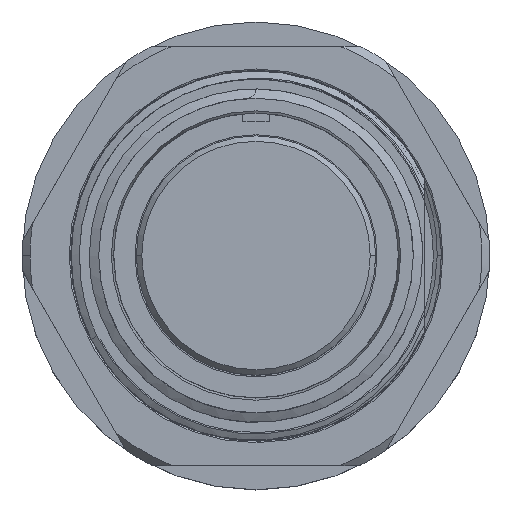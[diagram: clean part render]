
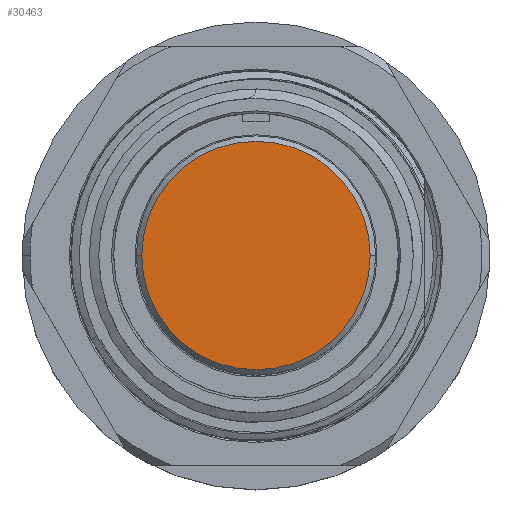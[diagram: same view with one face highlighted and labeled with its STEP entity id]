
A CAD part, top view. The second image highlights one B-rep face of the part: STEP entity #30463.
In plain terms, the highlighted planar face has unit normal (0, 0, 1).
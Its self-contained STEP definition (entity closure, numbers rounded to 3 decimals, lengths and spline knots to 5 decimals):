
#4444 = CIRCLE ( 'NONE', #40218, 0.425 ) ;
#9392 = EDGE_CURVE ( 'NONE', #18696, #45669, #105633, .T. ) ;
#13992 = CARTESIAN_POINT ( 'NONE',  ( 0., 0., -0.018 ) ) ;
#18696 = VERTEX_POINT ( 'NONE', #59632 ) ;
#30463 = ADVANCED_FACE ( 'NONE', ( #77806 ), #42847, .T. ) ;
#32187 = DIRECTION ( 'NONE',  ( 0., 0., 1. ) ) ;
#39288 = DIRECTION ( 'NONE',  ( 1., 0., 0. ) ) ;
#40218 = AXIS2_PLACEMENT_3D ( 'NONE', #84847, #32187, #39288 ) ;
#40806 = CARTESIAN_POINT ( 'NONE',  ( -0.425, 0., -0.018 ) ) ;
#42847 = PLANE ( 'NONE',  #87062 ) ;
#43816 = EDGE_CURVE ( 'NONE', #45669, #18696, #4444, .T. ) ;
#45669 = VERTEX_POINT ( 'NONE', #40806 ) ;
#53021 = ORIENTED_EDGE ( 'NONE', *, *, #43816, .T. ) ;
#53129 = ORIENTED_EDGE ( 'NONE', *, *, #9392, .T. ) ;
#59632 = CARTESIAN_POINT ( 'NONE',  ( 0.425, 0., -0.018 ) ) ;
#69756 = AXIS2_PLACEMENT_3D ( 'NONE', #88559, #107470, #79101 ) ;
#77806 = FACE_OUTER_BOUND ( 'NONE', #88498, .T. ) ;
#79101 = DIRECTION ( 'NONE',  ( 1., 0., 0. ) ) ;
#84847 = CARTESIAN_POINT ( 'NONE',  ( 0., 0., -0.018 ) ) ;
#87062 = AXIS2_PLACEMENT_3D ( 'NONE', #13992, #95578, #105582 ) ;
#88498 = EDGE_LOOP ( 'NONE', ( #53021, #53129 ) ) ;
#88559 = CARTESIAN_POINT ( 'NONE',  ( 0., 0., -0.018 ) ) ;
#95578 = DIRECTION ( 'NONE',  ( 0., 0., 1. ) ) ;
#105582 = DIRECTION ( 'NONE',  ( 1., 0., 0. ) ) ;
#105633 = CIRCLE ( 'NONE', #69756, 0.425 ) ;
#107470 = DIRECTION ( 'NONE',  ( 0., 0., 1. ) ) ;
